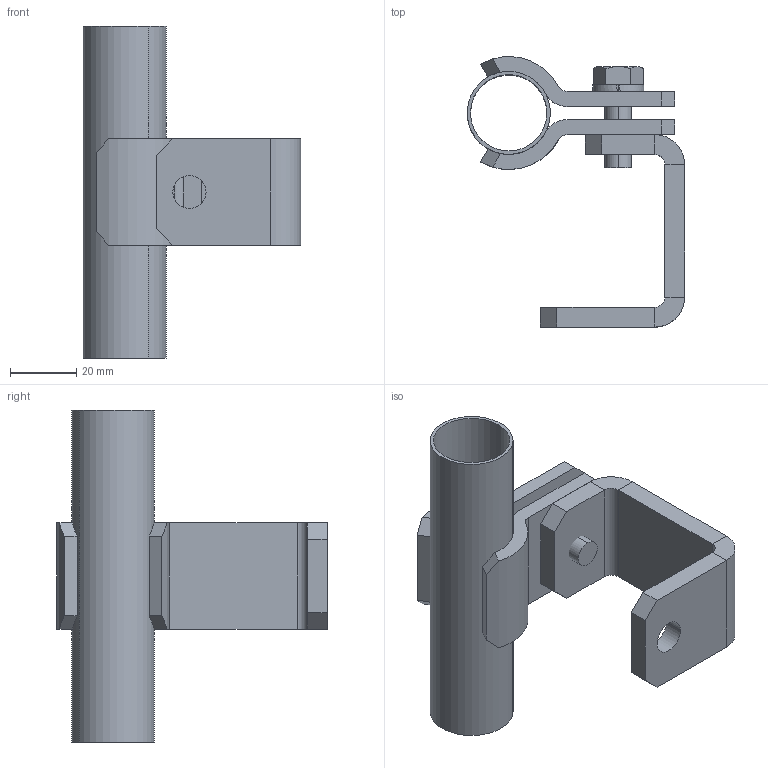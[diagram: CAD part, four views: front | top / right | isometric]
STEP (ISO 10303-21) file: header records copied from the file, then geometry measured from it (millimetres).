
FILE_DESCRIPTION (( 'STEP AP203' ), '1' );
FILE_NAME ('C型.STEP', '2024-02-01T01:54:10', ( '' ), ( '' ), 'SwSTEP 2.0', 'SolidWorks 2021', '' );
FILE_SCHEMA (( 'CONFIG_CONTROL_DESIGN' ));
Length unit declared in the file: millimetre
Products named in the file (1): C型
Bounding box: 65.46 x 81.47 x 100 mm (x, y, z)
Volume: 47434 mm3; surface area: 35098 mm2
Topology: 6 solids, 6 shells, 91 faces, 212 edges, 134 vertices
Faces by surface type: plane 57, cylinder 28, cone 6
Entity records: 2703 total; most frequent: CARTESIAN_POINT 542, DIRECTION 434, ORIENTED_EDGE 424, EDGE_CURVE 212, AXIS2_PLACEMENT_3D 154, VERTEX_POINT 134, VECTOR 126, LINE 126
